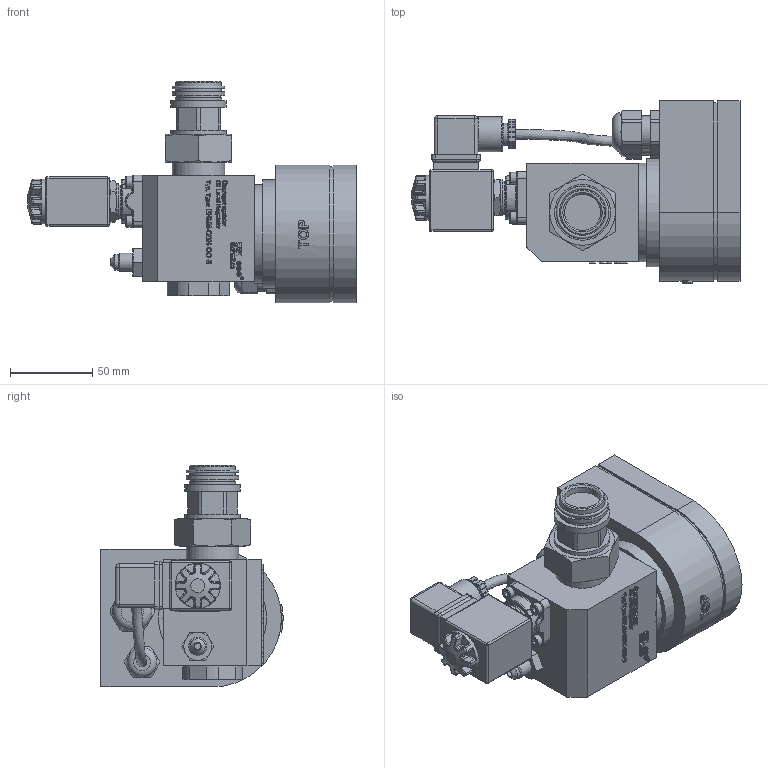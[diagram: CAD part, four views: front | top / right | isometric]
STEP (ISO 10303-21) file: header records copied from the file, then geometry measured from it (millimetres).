
FILE_DESCRIPTION(/* description */ (''),/* implementation_level */ '2;1');
FILE_NAME(/* name */ 'P:\ORE_ERM\ERM5-CDH-OC-B\ERM5-CDH-OC-B.stp',/* time_stamp */ '2015-06-22T11:14:54+02:00',/* author */ ('neufeld'),/* organization */ (''),/* preprocessor_version */ 'ST-DEVELOPER v15.2',/* originating_system */ 'Autodesk Inventor 2014',/* authorisation */ '');
FILE_SCHEMA (('AUTOMOTIVE_DESIGN { 1 0 10303 214 3 1 1 }'));
Products named in the file (1): ERM5-CDH-OC-B
Bounding box: 200 x 111 x 135.3 mm (x, y, z)
Volume: 894571.2 mm3; surface area: 93096.8 mm2
Topology: 3 solids, 3 shells, 2009 faces, 5107 edges, 3252 vertices
Faces by surface type: plane 961, bspline 587, cylinder 238, torus 104, cone 67, sphere 52
Full cylindrical faces by diameter (mm): 4 x1, 7 x5, 9.4 x1, 10 x1, 10.5 x1, 11.112 x1, 13.5 x2, 16 x1, 20 x2, 20.5 x1, 21.5 x1, 22 x2, 24 x1, 26.6 x1, 27.5 x1, 28 x1, 28.2 x1, 28.81 x1, 32 x1, 32.15 x1, 34 x2, 60 x1, 60.4 x1, 66 x1
Entity records: 73207 total; most frequent: CARTESIAN_POINT 28216, ORIENTED_EDGE 10054, DIRECTION 7379, EDGE_CURVE 5027, VERTEX_POINT 3229, LINE 2901, VECTOR 2901, AXIS2_PLACEMENT_3D 2239
